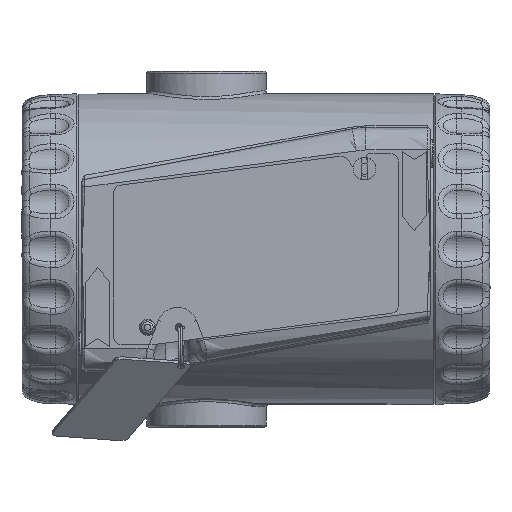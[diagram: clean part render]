
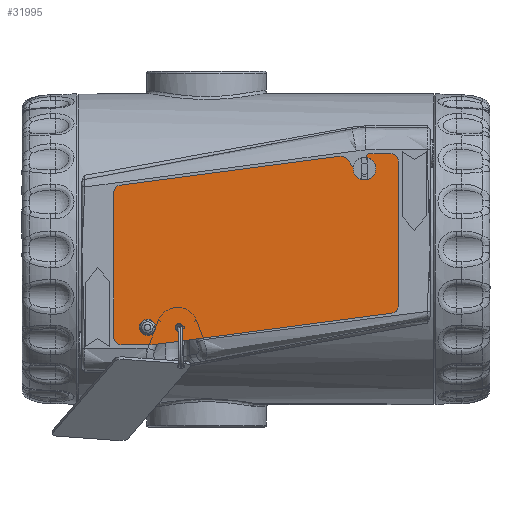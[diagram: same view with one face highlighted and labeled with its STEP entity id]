
A CAD part, left-side view. The second image highlights one B-rep face of the part: STEP entity #31995.
In plain terms, the highlighted planar face has unit normal (-1, 0, 0) as drawn and (0, 0, 1) by its records, which use the part's own axes.
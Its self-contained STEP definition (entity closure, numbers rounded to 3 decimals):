
#2491=FACE_BOUND('',#10454,.T.);
#2492=FACE_BOUND('',#10455,.T.);
#3018=PLANE('',#36099);
#4496=LINE('',#74701,#6015);
#4500=LINE('',#74713,#6019);
#4504=LINE('',#74725,#6023);
#4508=LINE('',#74737,#6027);
#4512=LINE('',#74749,#6031);
#4515=LINE('',#74755,#6034);
#4519=LINE('',#74767,#6038);
#4523=LINE('',#74778,#6042);
#6015=VECTOR('',#44727,10.);
#6019=VECTOR('',#44739,10.);
#6023=VECTOR('',#44751,10.);
#6027=VECTOR('',#44763,10.);
#6031=VECTOR('',#44775,10.);
#6034=VECTOR('',#44780,10.);
#6038=VECTOR('',#44792,10.);
#6042=VECTOR('',#44804,10.);
#8414=FACE_OUTER_BOUND('',#10453,.T.);
#10453=EDGE_LOOP('',(#29624,#29625,#29626,#29627,#29628,#29629,#29630,#29631,
#29632,#29633,#29634,#29635,#29636,#29637,#29638));
#10454=EDGE_LOOP('',(#29639));
#10455=EDGE_LOOP('',(#29640));
#12514=CIRCLE('',#36065,1.35);
#12516=CIRCLE('',#36068,1.);
#12517=CIRCLE('',#36070,2.);
#12519=CIRCLE('',#36074,2.);
#12521=CIRCLE('',#36078,1.);
#12523=CIRCLE('',#36082,2.);
#12525=CIRCLE('',#36086,2.);
#12527=CIRCLE('',#36091,2.);
#12529=CIRCLE('',#36095,2.);
#15424=VERTEX_POINT('',#74681);
#15426=VERTEX_POINT('',#74687);
#15427=VERTEX_POINT('',#74691);
#15428=VERTEX_POINT('',#74692);
#15431=VERTEX_POINT('',#74700);
#15433=VERTEX_POINT('',#74706);
#15435=VERTEX_POINT('',#74712);
#15437=VERTEX_POINT('',#74718);
#15439=VERTEX_POINT('',#74724);
#15441=VERTEX_POINT('',#74730);
#15443=VERTEX_POINT('',#74736);
#15445=VERTEX_POINT('',#74742);
#15447=VERTEX_POINT('',#74748);
#15449=VERTEX_POINT('',#74754);
#15451=VERTEX_POINT('',#74760);
#15453=VERTEX_POINT('',#74766);
#15455=VERTEX_POINT('',#74772);
#20148=EDGE_CURVE('',#15424,#15424,#12514,.T.);
#20151=EDGE_CURVE('',#15426,#15426,#12516,.T.);
#20152=EDGE_CURVE('',#15427,#15428,#12517,.T.);
#20156=EDGE_CURVE('',#15428,#15431,#4496,.T.);
#20159=EDGE_CURVE('',#15431,#15433,#12519,.T.);
#20162=EDGE_CURVE('',#15433,#15435,#4500,.T.);
#20165=EDGE_CURVE('',#15435,#15437,#12521,.T.);
#20168=EDGE_CURVE('',#15437,#15439,#4504,.T.);
#20171=EDGE_CURVE('',#15439,#15441,#12523,.T.);
#20174=EDGE_CURVE('',#15441,#15443,#4508,.T.);
#20177=EDGE_CURVE('',#15443,#15445,#12525,.T.);
#20180=EDGE_CURVE('',#15445,#15447,#4512,.T.);
#20183=EDGE_CURVE('',#15447,#15449,#4515,.T.);
#20186=EDGE_CURVE('',#15449,#15451,#12527,.T.);
#20189=EDGE_CURVE('',#15451,#15453,#4519,.T.);
#20192=EDGE_CURVE('',#15453,#15455,#12529,.T.);
#20195=EDGE_CURVE('',#15455,#15427,#4523,.T.);
#29624=ORIENTED_EDGE('',*,*,#20152,.F.);
#29625=ORIENTED_EDGE('',*,*,#20195,.F.);
#29626=ORIENTED_EDGE('',*,*,#20192,.F.);
#29627=ORIENTED_EDGE('',*,*,#20189,.F.);
#29628=ORIENTED_EDGE('',*,*,#20186,.F.);
#29629=ORIENTED_EDGE('',*,*,#20183,.F.);
#29630=ORIENTED_EDGE('',*,*,#20180,.F.);
#29631=ORIENTED_EDGE('',*,*,#20177,.F.);
#29632=ORIENTED_EDGE('',*,*,#20174,.F.);
#29633=ORIENTED_EDGE('',*,*,#20171,.F.);
#29634=ORIENTED_EDGE('',*,*,#20168,.F.);
#29635=ORIENTED_EDGE('',*,*,#20165,.F.);
#29636=ORIENTED_EDGE('',*,*,#20162,.F.);
#29637=ORIENTED_EDGE('',*,*,#20159,.F.);
#29638=ORIENTED_EDGE('',*,*,#20156,.F.);
#29639=ORIENTED_EDGE('',*,*,#20148,.T.);
#29640=ORIENTED_EDGE('',*,*,#20151,.T.);
#31995=ADVANCED_FACE('',(#8414,#2491,#2492),#3018,.T.);
#36065=AXIS2_PLACEMENT_3D('',#74683,#44708,#44709);
#36068=AXIS2_PLACEMENT_3D('',#74689,#44715,#44716);
#36070=AXIS2_PLACEMENT_3D('',#74693,#44719,#44720);
#36074=AXIS2_PLACEMENT_3D('',#74707,#44732,#44733);
#36078=AXIS2_PLACEMENT_3D('',#74719,#44744,#44745);
#36082=AXIS2_PLACEMENT_3D('',#74731,#44756,#44757);
#36086=AXIS2_PLACEMENT_3D('',#74743,#44768,#44769);
#36091=AXIS2_PLACEMENT_3D('',#74761,#44785,#44786);
#36095=AXIS2_PLACEMENT_3D('',#74773,#44797,#44798);
#36099=AXIS2_PLACEMENT_3D('',#74781,#44808,#44809);
#44708=DIRECTION('center_axis',(0.,0.,-1.));
#44709=DIRECTION('ref_axis',(-1.,0.,0.));
#44715=DIRECTION('center_axis',(0.,0.,-1.));
#44716=DIRECTION('ref_axis',(-1.,0.,0.));
#44719=DIRECTION('center_axis',(0.,0.,-1.));
#44720=DIRECTION('ref_axis',(0.766,0.643,0.));
#44727=DIRECTION('',(0.643,-0.766,0.));
#44732=DIRECTION('center_axis',(0.,0.,1.));
#44733=DIRECTION('ref_axis',(0.766,0.643,0.));
#44739=DIRECTION('',(-0.643,0.766,0.));
#44744=DIRECTION('center_axis',(0.,0.,-1.));
#44745=DIRECTION('ref_axis',(0.,1.,0.));
#44751=DIRECTION('',(1.,0.,0.));
#44756=DIRECTION('center_axis',(0.,0.,-1.));
#44757=DIRECTION('ref_axis',(1.,0.,0.));
#44763=DIRECTION('',(0.,-1.,0.));
#44768=DIRECTION('center_axis',(0.,0.,-1.));
#44769=DIRECTION('ref_axis',(0.131,-0.991,0.));
#44775=DIRECTION('',(-0.991,-0.131,0.));
#44780=DIRECTION('',(-1.,0.,0.));
#44785=DIRECTION('center_axis',(0.,0.,-1.));
#44786=DIRECTION('ref_axis',(-1.,0.,0.));
#44792=DIRECTION('',(0.,1.,0.));
#44797=DIRECTION('center_axis',(0.,0.,-1.));
#44798=DIRECTION('ref_axis',(-0.131,0.991,0.));
#44804=DIRECTION('',(0.991,0.131,0.));
#44808=DIRECTION('center_axis',(0.,0.,1.));
#44809=DIRECTION('ref_axis',(1.,0.,0.));
#74681=CARTESIAN_POINT('',(10.35,4.599,0.7));
#74683=CARTESIAN_POINT('Origin',(9.,4.599,0.7));
#74687=CARTESIAN_POINT('',(18.4,4.599,0.7));
#74689=CARTESIAN_POINT('Origin',(17.4,4.599,0.7));
#74691=CARTESIAN_POINT('',(60.389,50.327,0.7));
#74692=CARTESIAN_POINT('',(62.182,49.63,0.7));
#74693=CARTESIAN_POINT('Origin',(60.65,48.344,0.7));
#74700=CARTESIAN_POINT('',(65.468,45.714,0.7));
#74701=CARTESIAN_POINT('',(65.468,45.714,0.7));
#74706=CARTESIAN_POINT('',(68.532,48.286,0.7));
#74707=CARTESIAN_POINT('Origin',(67.,47.,0.7));
#74712=CARTESIAN_POINT('',(67.633,49.357,0.7));
#74713=CARTESIAN_POINT('',(67.633,49.357,0.7));
#74718=CARTESIAN_POINT('',(68.399,51.,0.7));
#74719=CARTESIAN_POINT('Origin',(68.399,50.,0.7));
#74724=CARTESIAN_POINT('',(74.,51.,0.7));
#74725=CARTESIAN_POINT('',(74.,51.,0.7));
#74730=CARTESIAN_POINT('',(76.,49.,0.7));
#74731=CARTESIAN_POINT('Origin',(74.,49.,0.7));
#74736=CARTESIAN_POINT('',(76.,10.377,0.7));
#74737=CARTESIAN_POINT('',(76.,10.377,0.7));
#74742=CARTESIAN_POINT('',(74.261,8.394,0.7));
#74743=CARTESIAN_POINT('Origin',(74.,10.377,0.7));
#74748=CARTESIAN_POINT('',(10.5,0.,0.7));
#74749=CARTESIAN_POINT('',(10.5,0.,0.7));
#74754=CARTESIAN_POINT('',(2.,0.,0.7));
#74755=CARTESIAN_POINT('',(2.,0.,0.7));
#74760=CARTESIAN_POINT('',(0.,2.,0.7));
#74761=CARTESIAN_POINT('Origin',(2.,2.,0.7));
#74766=CARTESIAN_POINT('',(0.,40.623,0.7));
#74767=CARTESIAN_POINT('',(0.,40.623,0.7));
#74772=CARTESIAN_POINT('',(1.739,42.606,0.7));
#74773=CARTESIAN_POINT('Origin',(2.,40.623,0.7));
#74778=CARTESIAN_POINT('',(60.389,50.327,0.7));
#74781=CARTESIAN_POINT('Origin',(39.077,26.228,0.7));
